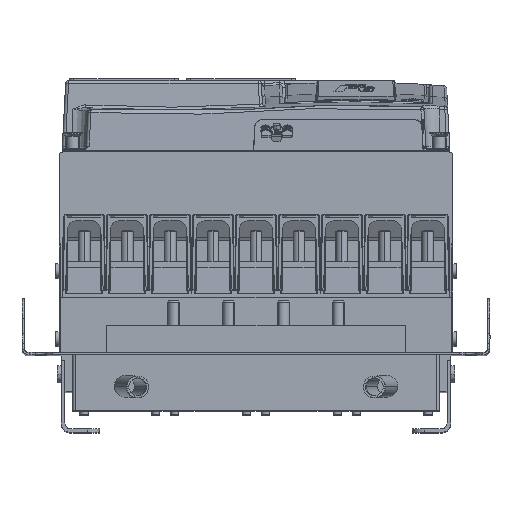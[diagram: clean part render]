
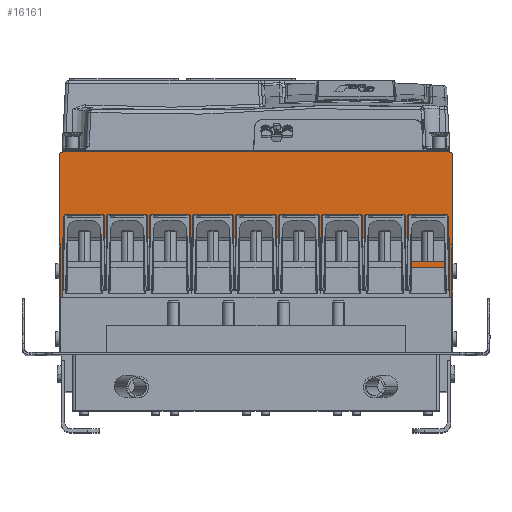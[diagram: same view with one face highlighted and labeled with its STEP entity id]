
A CAD part, top view. The second image highlights one B-rep face of the part: STEP entity #16161.
In plain terms, the highlighted planar face has unit normal (0, 0, 1).
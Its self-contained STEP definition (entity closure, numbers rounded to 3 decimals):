
#1583 = AXIS2_PLACEMENT_3D ( 'NONE', #25710, #82679, #32772 ) ;
#2852 = LINE ( 'NONE', #100081, #94433 ) ;
#3774 = LINE ( 'NONE', #36902, #59700 ) ;
#4210 = LINE ( 'NONE', #86185, #73215 ) ;
#4459 = VERTEX_POINT ( 'NONE', #91092 ) ;
#4756 = VERTEX_POINT ( 'NONE', #20494 ) ;
#6157 = EDGE_CURVE ( 'NONE', #4756, #52263, #7584, .T. ) ;
#6653 = ORIENTED_EDGE ( 'NONE', *, *, #40334, .F. ) ;
#7584 = LINE ( 'NONE', #24991, #23555 ) ;
#11279 = EDGE_CURVE ( 'NONE', #52263, #38883, #97897, .T. ) ;
#12659 = EDGE_CURVE ( 'NONE', #4459, #49082, #59130, .T. ) ;
#13696 = CARTESIAN_POINT ( 'NONE',  ( -161.5, -3.5, 453. ) ) ;
#13790 = DIRECTION ( 'NONE',  ( -1., 0., 0. ) ) ;
#15246 = DIRECTION ( 'NONE',  ( 0., -1., 0. ) ) ;
#16161 = ADVANCED_FACE ( 'NONE', ( #51176 ), #107121, .F. ) ;
#19222 = VERTEX_POINT ( 'NONE', #70467 ) ;
#19893 = LINE ( 'NONE', #101813, #81838 ) ;
#20494 = CARTESIAN_POINT ( 'NONE',  ( 163.5, -77., 453. ) ) ;
#20699 = EDGE_LOOP ( 'NONE', ( #27211, #64780, #68422, #6653, #29280, #25334, #104388, #78836, #65085, #36814 ) ) ;
#20892 = CARTESIAN_POINT ( 'NONE',  ( -165., -77., 453. ) ) ;
#21595 = CARTESIAN_POINT ( 'NONE',  ( 161.5, 0., 453. ) ) ;
#23555 = VECTOR ( 'NONE', #15246, 1000. ) ;
#24991 = CARTESIAN_POINT ( 'NONE',  ( 163.5, 0., 453. ) ) ;
#25334 = ORIENTED_EDGE ( 'NONE', *, *, #6157, .F. ) ;
#25710 = CARTESIAN_POINT ( 'NONE',  ( 0., 0., 453. ) ) ;
#25878 = CARTESIAN_POINT ( 'NONE',  ( 163.5, -167.9, 453. ) ) ;
#27159 = DIRECTION ( 'NONE',  ( 1., 0., 0. ) ) ;
#27211 = ORIENTED_EDGE ( 'NONE', *, *, #50533, .F. ) ;
#27343 = DIRECTION ( 'NONE',  ( 0., 1., 0. ) ) ;
#27419 = AXIS2_PLACEMENT_3D ( 'NONE', #73943, #99498, #66372 ) ;
#28164 = DIRECTION ( 'NONE',  ( -1., 0., 0. ) ) ;
#28713 = VERTEX_POINT ( 'NONE', #21595 ) ;
#29280 = ORIENTED_EDGE ( 'NONE', *, *, #11279, .F. ) ;
#32772 = DIRECTION ( 'NONE',  ( 0., 1., 0. ) ) ;
#35611 = DIRECTION ( 'NONE',  ( 1., 0., 0. ) ) ;
#36814 = ORIENTED_EDGE ( 'NONE', *, *, #52341, .F. ) ;
#36902 = CARTESIAN_POINT ( 'NONE',  ( -165.001, -77., 453. ) ) ;
#38658 = DIRECTION ( 'NONE',  ( 0., 0., -1. ) ) ;
#38883 = VERTEX_POINT ( 'NONE', #93656 ) ;
#39291 = EDGE_CURVE ( 'NONE', #88199, #60273, #2852, .T. ) ;
#40334 = EDGE_CURVE ( 'NONE', #38883, #97932, #47495, .T. ) ;
#43462 = CARTESIAN_POINT ( 'NONE',  ( 165., -3.5, 453. ) ) ;
#43506 = CARTESIAN_POINT ( 'NONE',  ( 165., -77., 453. ) ) ;
#46590 = EDGE_CURVE ( 'NONE', #28713, #60273, #68908, .T. ) ;
#47495 = LINE ( 'NONE', #78457, #106580 ) ;
#48458 = CARTESIAN_POINT ( 'NONE',  ( 0., -167.9, 453. ) ) ;
#48987 = CARTESIAN_POINT ( 'NONE',  ( -163.5, -77., 453. ) ) ;
#49082 = VERTEX_POINT ( 'NONE', #20892 ) ;
#50533 = EDGE_CURVE ( 'NONE', #4459, #19222, #97135, .T. ) ;
#51176 = FACE_OUTER_BOUND ( 'NONE', #20699, .T. ) ;
#52263 = VERTEX_POINT ( 'NONE', #25878 ) ;
#52341 = EDGE_CURVE ( 'NONE', #19222, #28713, #19893, .T. ) ;
#59130 = LINE ( 'NONE', #99342, #94637 ) ;
#59670 = EDGE_CURVE ( 'NONE', #88199, #4756, #4210, .T. ) ;
#59700 = VECTOR ( 'NONE', #27159, 1000. ) ;
#60273 = VERTEX_POINT ( 'NONE', #43462 ) ;
#62177 = DIRECTION ( 'NONE',  ( 0., 1., 0. ) ) ;
#64780 = ORIENTED_EDGE ( 'NONE', *, *, #12659, .T. ) ;
#65085 = ORIENTED_EDGE ( 'NONE', *, *, #46590, .F. ) ;
#66372 = DIRECTION ( 'NONE',  ( 0., 1., 0. ) ) ;
#68422 = ORIENTED_EDGE ( 'NONE', *, *, #83879, .T. ) ;
#68908 = CIRCLE ( 'NONE', #27419, 3.5 ) ;
#70467 = CARTESIAN_POINT ( 'NONE',  ( -161.5, 0., 453. ) ) ;
#73215 = VECTOR ( 'NONE', #28164, 1000. ) ;
#73943 = CARTESIAN_POINT ( 'NONE',  ( 161.5, -3.5, 453. ) ) ;
#75347 = VECTOR ( 'NONE', #13790, 1000. ) ;
#78457 = CARTESIAN_POINT ( 'NONE',  ( -163.5, 0., 453. ) ) ;
#78836 = ORIENTED_EDGE ( 'NONE', *, *, #39291, .T. ) ;
#80409 = DIRECTION ( 'NONE',  ( 0., 1., 0. ) ) ;
#81838 = VECTOR ( 'NONE', #35611, 1000. ) ;
#82470 = DIRECTION ( 'NONE',  ( 0., -1., 0. ) ) ;
#82679 = DIRECTION ( 'NONE',  ( 0., 0., -1. ) ) ;
#83879 = EDGE_CURVE ( 'NONE', #49082, #97932, #3774, .T. ) ;
#86185 = CARTESIAN_POINT ( 'NONE',  ( 165.001, -77., 453. ) ) ;
#88199 = VERTEX_POINT ( 'NONE', #43506 ) ;
#91092 = CARTESIAN_POINT ( 'NONE',  ( -165., -3.5, 453. ) ) ;
#93656 = CARTESIAN_POINT ( 'NONE',  ( -163.5, -167.9, 453. ) ) ;
#94433 = VECTOR ( 'NONE', #27343, 1000. ) ;
#94637 = VECTOR ( 'NONE', #82470, 1000. ) ;
#97135 = CIRCLE ( 'NONE', #104100, 3.5 ) ;
#97897 = LINE ( 'NONE', #48458, #75347 ) ;
#97932 = VERTEX_POINT ( 'NONE', #48987 ) ;
#99342 = CARTESIAN_POINT ( 'NONE',  ( -165., -3.5, 453. ) ) ;
#99498 = DIRECTION ( 'NONE',  ( 0., 0., -1. ) ) ;
#100081 = CARTESIAN_POINT ( 'NONE',  ( 165., -3.5, 453. ) ) ;
#101813 = CARTESIAN_POINT ( 'NONE',  ( 0., 0., 453. ) ) ;
#104100 = AXIS2_PLACEMENT_3D ( 'NONE', #13696, #38658, #80409 ) ;
#104388 = ORIENTED_EDGE ( 'NONE', *, *, #59670, .F. ) ;
#106580 = VECTOR ( 'NONE', #62177, 1000. ) ;
#107121 = PLANE ( 'NONE',  #1583 ) ;
